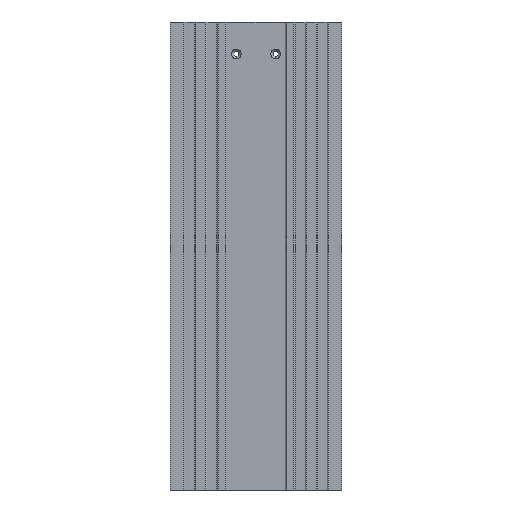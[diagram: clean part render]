
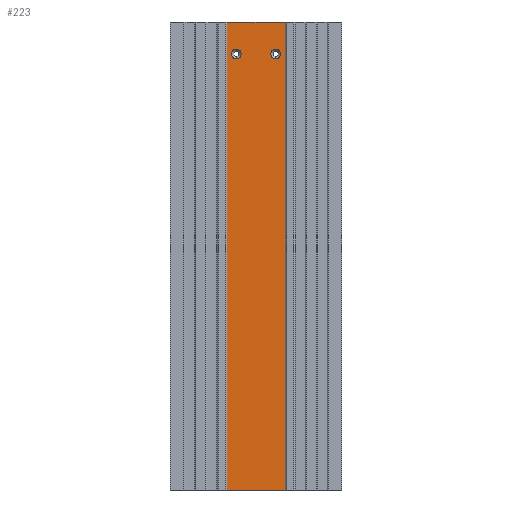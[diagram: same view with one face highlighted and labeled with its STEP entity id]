
A CAD part, front view. The second image highlights one B-rep face of the part: STEP entity #223.
In plain terms, the highlighted planar face has unit normal (0, -1, 0).
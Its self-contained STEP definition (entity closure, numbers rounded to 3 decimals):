
#88 = FACE_OUTER_BOUND ( 'NONE', #364, .T. ) ;
#103 = EDGE_LOOP ( 'NONE', ( #1493, #2921 ) ) ;
#127 = CIRCLE ( 'NONE', #751, 2. ) ;
#191 = CARTESIAN_POINT ( 'NONE',  ( -44.9, 24.5, 198. ) ) ;
#192 = VECTOR ( 'NONE', #1396, 1000. ) ;
#223 = ADVANCED_FACE ( 'NONE', ( #2371, #3008, #88 ), #313, .T. ) ;
#243 = VERTEX_POINT ( 'NONE', #1506 ) ;
#287 = AXIS2_PLACEMENT_3D ( 'NONE', #3189, #2443, #1920 ) ;
#313 = PLANE ( 'NONE',  #3122 ) ;
#348 = ORIENTED_EDGE ( 'NONE', *, *, #1210, .F. ) ;
#364 = EDGE_LOOP ( 'NONE', ( #883, #348, #2900, #1921 ) ) ;
#496 = CARTESIAN_POINT ( 'NONE',  ( 0., 24.5, 22.5 ) ) ;
#521 = VERTEX_POINT ( 'NONE', #2521 ) ;
#562 = EDGE_CURVE ( 'NONE', #243, #3083, #1311, .T. ) ;
#751 = AXIS2_PLACEMENT_3D ( 'NONE', #1233, #1510, #2994 ) ;
#814 = CARTESIAN_POINT ( 'NONE',  ( -44.9, 24.5, 200. ) ) ;
#883 = ORIENTED_EDGE ( 'NONE', *, *, #2571, .T. ) ;
#893 = ORIENTED_EDGE ( 'NONE', *, *, #562, .F. ) ;
#962 = VERTEX_POINT ( 'NONE', #2297 ) ;
#1041 = DIRECTION ( 'NONE',  ( 0., 0., -1. ) ) ;
#1093 = LINE ( 'NONE', #2390, #2883 ) ;
#1111 = CARTESIAN_POINT ( 'NONE',  ( -40.95, 24.5, 12.5 ) ) ;
#1130 = CARTESIAN_POINT ( 'NONE',  ( -64.85, 24.5, 22.5 ) ) ;
#1210 = EDGE_CURVE ( 'NONE', #962, #1771, #1290, .T. ) ;
#1233 = CARTESIAN_POINT ( 'NONE',  ( -44.9, 24.5, 200. ) ) ;
#1290 = LINE ( 'NONE', #496, #2710 ) ;
#1295 = AXIS2_PLACEMENT_3D ( 'NONE', #814, #3047, #2322 ) ;
#1311 = CIRCLE ( 'NONE', #1295, 2. ) ;
#1351 = DIRECTION ( 'NONE',  ( 0., 0., 1. ) ) ;
#1396 = DIRECTION ( 'NONE',  ( 0., 0., -1. ) ) ;
#1493 = ORIENTED_EDGE ( 'NONE', *, *, #1557, .F. ) ;
#1506 = CARTESIAN_POINT ( 'NONE',  ( -44.9, 24.5, 202. ) ) ;
#1510 = DIRECTION ( 'NONE',  ( 0., -1., 0. ) ) ;
#1557 = EDGE_CURVE ( 'NONE', #2326, #1789, #3022, .T. ) ;
#1630 = LINE ( 'NONE', #2657, #192 ) ;
#1760 = VECTOR ( 'NONE', #1351, 1000. ) ;
#1771 = VERTEX_POINT ( 'NONE', #1130 ) ;
#1789 = VERTEX_POINT ( 'NONE', #2874 ) ;
#1920 = DIRECTION ( 'NONE',  ( 0., 0., -1. ) ) ;
#1921 = ORIENTED_EDGE ( 'NONE', *, *, #2574, .F. ) ;
#1986 = CARTESIAN_POINT ( 'NONE',  ( -60.9, 24.5, 198. ) ) ;
#2025 = CARTESIAN_POINT ( 'NONE',  ( -60.9, 24.5, 200. ) ) ;
#2054 = DIRECTION ( 'NONE',  ( -1., 0., 0. ) ) ;
#2119 = LINE ( 'NONE', #1111, #1760 ) ;
#2126 = EDGE_CURVE ( 'NONE', #1789, #2326, #2305, .T. ) ;
#2129 = EDGE_CURVE ( 'NONE', #3083, #243, #127, .T. ) ;
#2133 = DIRECTION ( 'NONE',  ( 1., 0., 0. ) ) ;
#2161 = CARTESIAN_POINT ( 'NONE',  ( -40.95, 24.5, 213. ) ) ;
#2236 = ORIENTED_EDGE ( 'NONE', *, *, #2129, .F. ) ;
#2243 = EDGE_LOOP ( 'NONE', ( #2236, #893 ) ) ;
#2269 = CARTESIAN_POINT ( 'NONE',  ( 0., 24.5, 0. ) ) ;
#2297 = CARTESIAN_POINT ( 'NONE',  ( -40.95, 24.5, 22.5 ) ) ;
#2305 = CIRCLE ( 'NONE', #3064, 2. ) ;
#2322 = DIRECTION ( 'NONE',  ( 0., 0., -1. ) ) ;
#2326 = VERTEX_POINT ( 'NONE', #1986 ) ;
#2371 = FACE_BOUND ( 'NONE', #103, .T. ) ;
#2390 = CARTESIAN_POINT ( 'NONE',  ( -64.85, 24.5, 213. ) ) ;
#2443 = DIRECTION ( 'NONE',  ( 0., -1., 0. ) ) ;
#2497 = EDGE_CURVE ( 'NONE', #962, #3085, #2119, .T. ) ;
#2521 = CARTESIAN_POINT ( 'NONE',  ( -64.85, 24.5, 213. ) ) ;
#2536 = DIRECTION ( 'NONE',  ( 0., -1., 0. ) ) ;
#2557 = DIRECTION ( 'NONE',  ( 0., 0., -1. ) ) ;
#2571 = EDGE_CURVE ( 'NONE', #521, #1771, #1630, .T. ) ;
#2574 = EDGE_CURVE ( 'NONE', #521, #3085, #1093, .T. ) ;
#2657 = CARTESIAN_POINT ( 'NONE',  ( -64.85, 24.5, 12.5 ) ) ;
#2710 = VECTOR ( 'NONE', #2054, 1000. ) ;
#2806 = DIRECTION ( 'NONE',  ( 0., -1., 0. ) ) ;
#2874 = CARTESIAN_POINT ( 'NONE',  ( -60.9, 24.5, 202. ) ) ;
#2883 = VECTOR ( 'NONE', #2133, 1000. ) ;
#2900 = ORIENTED_EDGE ( 'NONE', *, *, #2497, .T. ) ;
#2921 = ORIENTED_EDGE ( 'NONE', *, *, #2126, .F. ) ;
#2994 = DIRECTION ( 'NONE',  ( 0., 0., -1. ) ) ;
#3008 = FACE_BOUND ( 'NONE', #2243, .T. ) ;
#3022 = CIRCLE ( 'NONE', #287, 2. ) ;
#3047 = DIRECTION ( 'NONE',  ( 0., -1., 0. ) ) ;
#3064 = AXIS2_PLACEMENT_3D ( 'NONE', #2025, #2806, #2557 ) ;
#3083 = VERTEX_POINT ( 'NONE', #191 ) ;
#3085 = VERTEX_POINT ( 'NONE', #2161 ) ;
#3122 = AXIS2_PLACEMENT_3D ( 'NONE', #2269, #2536, #1041 ) ;
#3189 = CARTESIAN_POINT ( 'NONE',  ( -60.9, 24.5, 200. ) ) ;
